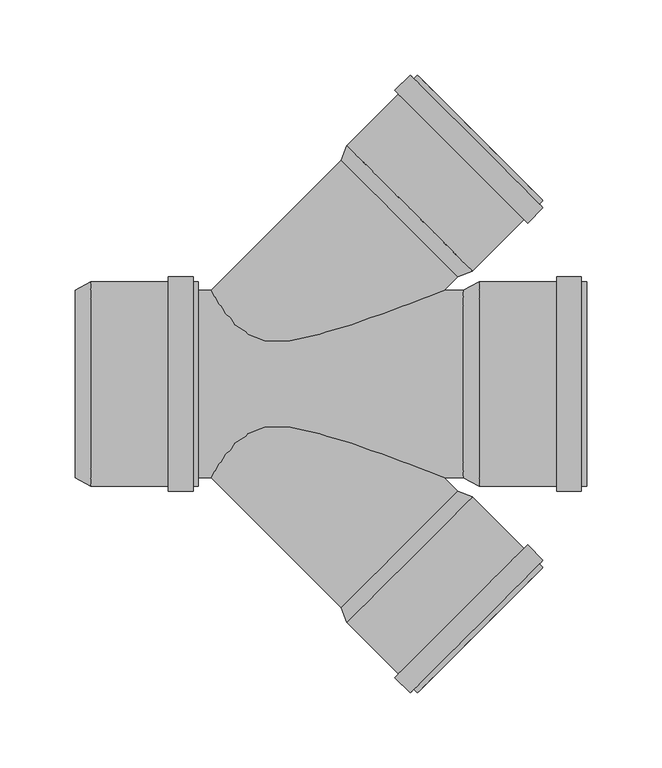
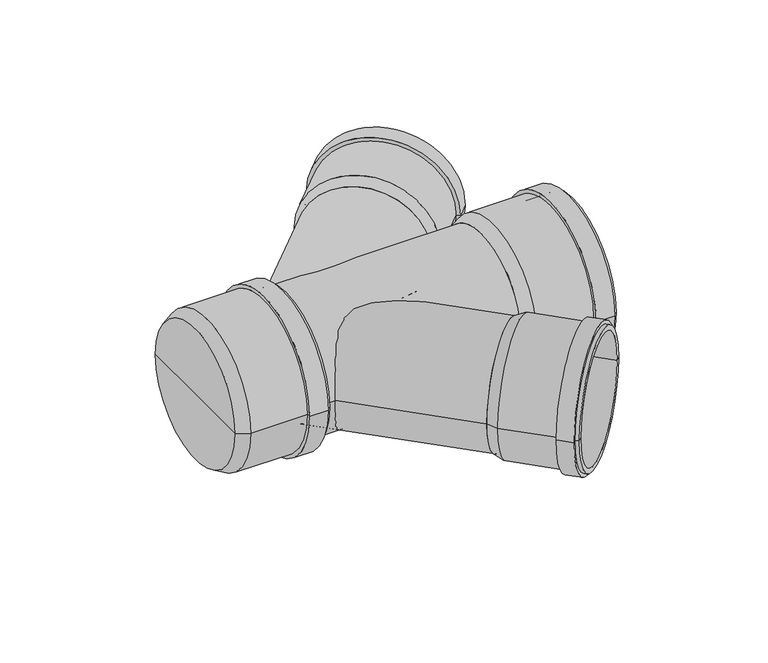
"""IFC4 building model written with IfcOpenShell, lengths in millimetres: pipe fitting geometry, pf_HTDA : pf_HTDA."""

from ifc_helpers import new_model, si_unit, point, frame, origin, origin_2d, place, context, project, spatial, polyline, circle_curve, trimmed, segment, composite_curve, outline, extrude, source, transform, mapped, element, save
from ifc_brep_helpers import plane_surface, cylinder_surface, revolved_surface, advanced_brep


def pipe_fitting_0b0d437f(model_context):
    return source(origin(), model_context, "Body", "SolidModel", [
        advanced_brep(
        [(149.1288202, 71.3470742, 0.0), (71.3470742, 149.1288202, 0.0), (75.1654508, 158.7454724, 0.0), (158.7454724, 75.1654508, 0.0), (110.2379472, 110.2379472, 0.0), (205.7680733, 122.1880518, 0.0), (122.1880518, 205.7680733, 0.0), (125.0871896, 202.8689355, 0.0), (202.8689355, 125.0871896, 0.0), (203.3639103, 119.7838887, 0.0), (119.7838887, 203.3639103, 0.0), (205.7680733, 117.3797257, 0.0), (117.3797257, 205.7680733, 0.0), (195.515025, 107.1266773, 0.0), (107.1266773, 195.515025, 0.0), (193.1108619, 109.5308404, 0.0), (109.5308404, 193.1108619, 0.0), (155.8463346, 78.0645886, 0.0), (78.0645886, 155.8463346, 0.0), (116.9554616, 116.9554616, 0.0)],
        [
            (0, 1, circle_curve(frame((110.2379472, 110.2379472, 0.0), z_axis=(0.707106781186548, 0.707106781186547, 0.0), x_axis=(-0.707106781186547, 0.707106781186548, 0.0)), 55.0)),
            (1, 2),
            (2, 3, circle_curve(frame((116.9554616, 116.9554616, 0.0), z_axis=(-0.707106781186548, -0.707106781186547, 0.0), x_axis=(-0.707106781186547, 0.707106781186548, 0.0)), 59.1)),
            (3, 0),
            (1, 0, circle_curve(frame((110.2379472, 110.2379472, 0.0), z_axis=(0.707106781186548, 0.707106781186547, 0.0), x_axis=(-0.707106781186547, 0.707106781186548, 0.0)), 55.0)),
            (3, 2, circle_curve(frame((116.9554616, 116.9554616, 0.0), z_axis=(-0.707106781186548, -0.707106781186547, 0.0), x_axis=(-0.707106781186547, 0.707106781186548, 0.0)), 59.1)),
            (4, 1),
            (0, 4),
            (5, 6, circle_curve(frame((163.9780626, 163.9780626, 0.0), z_axis=(0.707106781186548, 0.707106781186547, 0.0), x_axis=(-0.707106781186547, 0.707106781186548, 0.0)), 59.1)),
            (6, 7),
            (7, 8, circle_curve(frame((163.9780626, 163.9780626, 0.0), z_axis=(-0.707106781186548, -0.707106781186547, 0.0), x_axis=(-0.707106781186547, 0.707106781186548, 0.0)), 55.0)),
            (8, 5),
            (6, 5, circle_curve(frame((163.9780626, 163.9780626, 0.0), z_axis=(0.707106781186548, 0.707106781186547, 0.0), x_axis=(-0.707106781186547, 0.707106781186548, 0.0)), 59.1)),
            (8, 7, circle_curve(frame((163.9780626, 163.9780626, 0.0), z_axis=(-0.707106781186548, -0.707106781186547, 0.0), x_axis=(-0.707106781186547, 0.707106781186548, 0.0)), 55.0)),
            (9, 10, circle_curve(frame((161.5738995, 161.5738995, 0.0), z_axis=(0.707106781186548, 0.707106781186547, 0.0), x_axis=(-0.707106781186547, 0.707106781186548, 0.0)), 59.1)),
            (10, 6),
            (5, 9),
            (10, 9, circle_curve(frame((161.5738995, 161.5738995, 0.0), z_axis=(0.707106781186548, 0.707106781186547, 0.0), x_axis=(-0.707106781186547, 0.707106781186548, 0.0)), 59.1)),
            (11, 12, circle_curve(frame((161.5738995, 161.5738995, 0.0), z_axis=(0.707106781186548, 0.707106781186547, 0.0), x_axis=(-0.707106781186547, 0.707106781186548, 0.0)), 62.5)),
            (12, 10),
            (9, 11),
            (12, 11, circle_curve(frame((161.5738995, 161.5738995, 0.0), z_axis=(0.707106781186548, 0.707106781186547, 0.0), x_axis=(-0.707106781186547, 0.707106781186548, 0.0)), 62.5)),
            (13, 14, circle_curve(frame((151.3208512, 151.3208512, 0.0), z_axis=(0.707106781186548, 0.707106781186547, 0.0), x_axis=(-0.707106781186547, 0.707106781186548, 0.0)), 62.5)),
            (14, 12),
            (11, 13),
            (14, 13, circle_curve(frame((151.3208512, 151.3208512, 0.0), z_axis=(0.707106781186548, 0.707106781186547, 0.0), x_axis=(-0.707106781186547, 0.707106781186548, 0.0)), 62.5)),
            (15, 16, circle_curve(frame((151.3208512, 151.3208512, 0.0), z_axis=(0.707106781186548, 0.707106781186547, 0.0), x_axis=(-0.707106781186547, 0.707106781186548, 0.0)), 59.1)),
            (16, 14),
            (13, 15),
            (16, 15, circle_curve(frame((151.3208512, 151.3208512, 0.0), z_axis=(0.707106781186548, 0.707106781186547, 0.0), x_axis=(-0.707106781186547, 0.707106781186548, 0.0)), 59.1)),
            (2, 16),
            (15, 3),
            (17, 18, circle_curve(frame((116.9554616, 116.9554616, 0.0), z_axis=(0.707106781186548, 0.707106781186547, 0.0), x_axis=(-0.707106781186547, 0.707106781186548, 0.0)), 55.0)),
            (18, 19),
            (19, 17),
            (18, 17, circle_curve(frame((116.9554616, 116.9554616, 0.0), z_axis=(0.707106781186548, 0.707106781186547, 0.0), x_axis=(-0.707106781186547, 0.707106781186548, 0.0)), 55.0)),
            (7, 18),
            (17, 8),
        ],
        [
            revolved_surface(polyline([(75.1654508, 158.7454724, 0.0), (71.3470742, 149.1288202, 0.0)]), (110.2379472, 110.2379472, 0.0), (-0.707106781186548, -0.707106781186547, 0.0)),
            plane_surface(frame((110.2379472, 110.2379472, 0.0), z_axis=(-0.707106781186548, -0.707106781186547, 0.0), x_axis=(-0.707106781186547, 0.707106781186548, 0.0))),
            plane_surface(frame((163.9780626, 163.9780626, 0.0), z_axis=(0.707106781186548, 0.707106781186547, 0.0), x_axis=(-0.707106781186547, 0.707106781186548, 0.0))),
            cylinder_surface(frame((110.2379472, 110.2379472, 0.0), z_axis=(-0.707106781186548, -0.707106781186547, 0.0), x_axis=(-0.707106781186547, 0.707106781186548, 0.0)), 59.1),
            plane_surface(frame((161.5738995, 161.5738995, 0.0), z_axis=(0.707106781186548, 0.707106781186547, 0.0), x_axis=(-0.707106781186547, 0.707106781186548, 0.0))),
            cylinder_surface(frame((110.2379472, 110.2379472, 0.0), z_axis=(-0.707106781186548, -0.707106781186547, 0.0), x_axis=(-0.707106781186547, 0.707106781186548, 0.0)), 62.5),
            plane_surface(frame((151.3208512, 151.3208512, 0.0), z_axis=(-0.707106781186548, -0.707106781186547, 0.0), x_axis=(-0.707106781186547, 0.707106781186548, 0.0))),
            plane_surface(frame((116.9554616, 116.9554616, 0.0), z_axis=(0.707106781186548, 0.707106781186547, 0.0), x_axis=(-0.707106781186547, 0.707106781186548, 0.0))),
            revolved_surface(polyline([(78.06458863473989, 155.84633456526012, 0.0), (125.08718963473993, 202.8689355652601, 0.0)]), (110.2379472, 110.2379472, 0.0), (-0.707106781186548, -0.707106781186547, 0.0)),
        ],
        [
            (0, [[1, 2, 3, 4]]),
            (0, [[5, -4, 6, -2]]),
            (1, [[7, -1, 8]]),
            (1, [[-8, -5, -7]]),
            (2, [[9, 10, 11, 12]]),
            (2, [[13, -12, 14, -10]]),
            (3, [[15, 16, -9, 17]]),
            (3, [[18, -17, -13, -16]]),
            (4, [[19, 20, -15, 21]]),
            (4, [[22, -21, -18, -20]]),
            (5, [[23, 24, -19, 25]]),
            (5, [[26, -25, -22, -24]]),
            (6, [[27, 28, -23, 29]]),
            (6, [[30, -29, -26, -28]]),
            (3, [[-3, 31, -27, 32]]),
            (3, [[-6, -32, -30, -31]]),
            (7, [[33, 34, 35]]),
            (7, [[36, -35, -34]]),
            (8, [[-11, 37, -33, 38]]),
            (8, [[-14, -38, -36, -37]]),
        ],
    ),
        advanced_brep(
        [(71.3470742, -149.1288202, 0.0), (149.1288202, -71.3470742, 0.0), (158.7454724, -75.1654508, 0.0), (75.1654508, -158.7454724, 0.0), (110.2379472, -110.2379472, 0.0), (122.1880518, -205.7680733, 0.0), (205.7680733, -122.1880518, 0.0), (202.8689355, -125.0871896, 0.0), (125.0871896, -202.8689355, 0.0), (119.7838887, -203.3639103, 0.0), (203.3639103, -119.7838887, 0.0), (117.3797257, -205.7680733, 0.0), (205.7680733, -117.3797257, 0.0), (107.1266773, -195.515025, 0.0), (195.515025, -107.1266773, 0.0), (109.5308404, -193.1108619, 0.0), (193.1108619, -109.5308404, 0.0), (78.0645886, -155.8463346, 0.0), (155.8463346, -78.0645886, 0.0), (116.9554616, -116.9554616, 0.0)],
        [
            (0, 1, circle_curve(frame((110.2379472, -110.2379472, 0.0), z_axis=(0.7071067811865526, -0.7071067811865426, 0.0), x_axis=(0.7071067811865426, 0.7071067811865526, 0.0)), 55.0)),
            (1, 2),
            (2, 3, circle_curve(frame((116.9554616, -116.9554616, 0.0), z_axis=(-0.7071067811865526, 0.7071067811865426, 0.0), x_axis=(0.7071067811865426, 0.7071067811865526, 0.0)), 59.1)),
            (3, 0),
            (1, 0, circle_curve(frame((110.2379472, -110.2379472, 0.0), z_axis=(0.7071067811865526, -0.7071067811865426, 0.0), x_axis=(0.7071067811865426, 0.7071067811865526, 0.0)), 55.0)),
            (3, 2, circle_curve(frame((116.9554616, -116.9554616, 0.0), z_axis=(-0.7071067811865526, 0.7071067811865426, 0.0), x_axis=(0.7071067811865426, 0.7071067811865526, 0.0)), 59.1)),
            (4, 1),
            (0, 4),
            (5, 6, circle_curve(frame((163.9780626, -163.9780626, 0.0), z_axis=(0.7071067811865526, -0.7071067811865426, 0.0), x_axis=(0.7071067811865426, 0.7071067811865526, 0.0)), 59.1)),
            (6, 7),
            (7, 8, circle_curve(frame((163.9780626, -163.9780626, 0.0), z_axis=(-0.7071067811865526, 0.7071067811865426, 0.0), x_axis=(0.7071067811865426, 0.7071067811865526, 0.0)), 55.0)),
            (8, 5),
            (6, 5, circle_curve(frame((163.9780626, -163.9780626, 0.0), z_axis=(0.7071067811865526, -0.7071067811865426, 0.0), x_axis=(0.7071067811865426, 0.7071067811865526, 0.0)), 59.1)),
            (8, 7, circle_curve(frame((163.9780626, -163.9780626, 0.0), z_axis=(-0.7071067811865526, 0.7071067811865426, 0.0), x_axis=(0.7071067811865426, 0.7071067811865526, 0.0)), 55.0)),
            (9, 10, circle_curve(frame((161.5738995, -161.5738995, 0.0), z_axis=(0.7071067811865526, -0.7071067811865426, 0.0), x_axis=(0.7071067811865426, 0.7071067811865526, 0.0)), 59.1)),
            (10, 6),
            (5, 9),
            (10, 9, circle_curve(frame((161.5738995, -161.5738995, 0.0), z_axis=(0.7071067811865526, -0.7071067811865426, 0.0), x_axis=(0.7071067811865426, 0.7071067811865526, 0.0)), 59.1)),
            (11, 12, circle_curve(frame((161.5738995, -161.5738995, 0.0), z_axis=(0.7071067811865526, -0.7071067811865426, 0.0), x_axis=(0.7071067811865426, 0.7071067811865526, 0.0)), 62.5)),
            (12, 10),
            (9, 11),
            (12, 11, circle_curve(frame((161.5738995, -161.5738995, 0.0), z_axis=(0.7071067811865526, -0.7071067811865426, 0.0), x_axis=(0.7071067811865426, 0.7071067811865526, 0.0)), 62.5)),
            (13, 14, circle_curve(frame((151.3208512, -151.3208512, 0.0), z_axis=(0.7071067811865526, -0.7071067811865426, 0.0), x_axis=(0.7071067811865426, 0.7071067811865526, 0.0)), 62.5)),
            (14, 12),
            (11, 13),
            (14, 13, circle_curve(frame((151.3208512, -151.3208512, 0.0), z_axis=(0.7071067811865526, -0.7071067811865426, 0.0), x_axis=(0.7071067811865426, 0.7071067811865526, 0.0)), 62.5)),
            (15, 16, circle_curve(frame((151.3208512, -151.3208512, 0.0), z_axis=(0.7071067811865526, -0.7071067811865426, 0.0), x_axis=(0.7071067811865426, 0.7071067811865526, 0.0)), 59.1)),
            (16, 14),
            (13, 15),
            (16, 15, circle_curve(frame((151.3208512, -151.3208512, 0.0), z_axis=(0.7071067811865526, -0.7071067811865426, 0.0), x_axis=(0.7071067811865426, 0.7071067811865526, 0.0)), 59.1)),
            (2, 16),
            (15, 3),
            (17, 18, circle_curve(frame((116.9554616, -116.9554616, 0.0), z_axis=(0.7071067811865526, -0.7071067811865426, 0.0), x_axis=(0.7071067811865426, 0.7071067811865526, 0.0)), 55.0)),
            (18, 19),
            (19, 17),
            (18, 17, circle_curve(frame((116.9554616, -116.9554616, 0.0), z_axis=(0.7071067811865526, -0.7071067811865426, 0.0), x_axis=(0.7071067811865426, 0.7071067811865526, 0.0)), 55.0)),
            (7, 18),
            (17, 8),
        ],
        [
            revolved_surface(polyline([(158.7454724, -75.1654508, 0.0), (149.1288202, -71.3470742, 0.0)]), (110.2379472, -110.2379472, 0.0), (-0.7071067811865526, 0.7071067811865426, 0.0)),
            plane_surface(frame((110.2379472, -110.2379472, 0.0), z_axis=(-0.7071067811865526, 0.7071067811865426, 0.0), x_axis=(0.7071067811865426, 0.7071067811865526, 0.0))),
            plane_surface(frame((163.9780626, -163.9780626, 0.0), z_axis=(0.7071067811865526, -0.7071067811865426, 0.0), x_axis=(0.7071067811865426, 0.7071067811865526, 0.0))),
            cylinder_surface(frame((110.2379472, -110.2379472, 0.0), z_axis=(-0.7071067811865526, 0.7071067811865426, 0.0), x_axis=(0.7071067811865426, 0.7071067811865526, 0.0)), 59.1),
            plane_surface(frame((161.5738995, -161.5738995, 0.0), z_axis=(0.7071067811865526, -0.7071067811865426, 0.0), x_axis=(0.7071067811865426, 0.7071067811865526, 0.0))),
            cylinder_surface(frame((110.2379472, -110.2379472, 0.0), z_axis=(-0.7071067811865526, 0.7071067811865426, 0.0), x_axis=(0.7071067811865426, 0.7071067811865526, 0.0)), 62.5),
            plane_surface(frame((151.3208512, -151.3208512, 0.0), z_axis=(-0.7071067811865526, 0.7071067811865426, 0.0), x_axis=(0.7071067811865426, 0.7071067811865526, 0.0))),
            plane_surface(frame((116.9554616, -116.9554616, 0.0), z_axis=(0.7071067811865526, -0.7071067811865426, 0.0), x_axis=(0.7071067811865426, 0.7071067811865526, 0.0))),
            revolved_surface(polyline([(155.8463345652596, -78.0645886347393, 0.0), (202.86893556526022, -125.08718963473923, 0.0)]), (110.2379472, -110.2379472, 0.0), (-0.7071067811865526, 0.7071067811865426, 0.0)),
        ],
        [
            (0, [[1, 2, 3, 4]]),
            (0, [[5, -4, 6, -2]]),
            (1, [[7, -1, 8]]),
            (1, [[-8, -5, -7]]),
            (2, [[9, 10, 11, 12]]),
            (2, [[13, -12, 14, -10]]),
            (3, [[15, 16, -9, 17]]),
            (3, [[18, -17, -13, -16]]),
            (4, [[19, 20, -15, 21]]),
            (4, [[22, -21, -18, -20]]),
            (5, [[23, 24, -19, 25]]),
            (5, [[26, -25, -22, -24]]),
            (6, [[27, 28, -23, 29]]),
            (6, [[30, -29, -26, -28]]),
            (3, [[-3, 31, -27, 32]]),
            (3, [[-6, -32, -30, -31]]),
            (7, [[33, 34, 35]]),
            (7, [[36, -35, -34]]),
            (8, [[-11, 37, -33, 38]]),
            (8, [[-14, -38, -36, -37]]),
        ],
    ),
        advanced_brep(
        [(152.8, -62.5, 0.0), (152.8, 62.5, 0.0), (163.3, 68.1, 0.0), (163.3, -68.1, 0.0), (152.8, 0.0, 0.0), (234.8, -68.1, 0.0), (234.8, 68.1, 0.0), (234.8, 62.5, 0.0), (234.8, -62.5, 0.0), (231.4, -68.1, 0.0), (231.4, 68.1, 0.0), (231.4, -71.5, 0.0), (231.4, 71.5, 0.0), (214.8, -71.5, 0.0), (214.8, 71.5, 0.0), (214.8, -68.1, 0.0), (214.8, 68.1, 0.0), (163.3, -62.5, 0.0), (163.3, 62.5, 0.0), (163.3, 0.0, 0.0)],
        [
            (0, 1, circle_curve(frame((152.8, 0.0, 0.0), z_axis=(1.0, 0.0, 0.0), x_axis=(0.0, 1.0, 0.0)), 62.5)),
            (1, 2),
            (2, 3, circle_curve(frame((163.3, 0.0, 0.0), z_axis=(-1.0, 0.0, 0.0), x_axis=(0.0, 1.0, 0.0)), 68.1)),
            (3, 0),
            (1, 0, circle_curve(frame((152.8, 0.0, 0.0), z_axis=(1.0, 0.0, 0.0), x_axis=(0.0, 1.0, 0.0)), 62.5)),
            (3, 2, circle_curve(frame((163.3, 0.0, 0.0), z_axis=(-1.0, 0.0, 0.0), x_axis=(0.0, 1.0, 0.0)), 68.1)),
            (4, 1),
            (0, 4),
            (5, 6, circle_curve(frame((234.8, 0.0, 0.0), z_axis=(1.0, 0.0, 0.0), x_axis=(0.0, 1.0, 0.0)), 68.1)),
            (6, 7),
            (7, 8, circle_curve(frame((234.8, 0.0, 0.0), z_axis=(-1.0, 0.0, 0.0), x_axis=(0.0, 1.0, 0.0)), 62.5)),
            (8, 5),
            (6, 5, circle_curve(frame((234.8, 0.0, 0.0), z_axis=(1.0, 0.0, 0.0), x_axis=(0.0, 1.0, 0.0)), 68.1)),
            (8, 7, circle_curve(frame((234.8, 0.0, 0.0), z_axis=(-1.0, 0.0, 0.0), x_axis=(0.0, 1.0, 0.0)), 62.5)),
            (9, 10, circle_curve(frame((231.4, 0.0, 0.0), z_axis=(1.0, 0.0, 0.0), x_axis=(0.0, 1.0, 0.0)), 68.1)),
            (10, 6),
            (5, 9),
            (10, 9, circle_curve(frame((231.4, 0.0, 0.0), z_axis=(1.0, 0.0, 0.0), x_axis=(0.0, 1.0, 0.0)), 68.1)),
            (11, 12, circle_curve(frame((231.4, 0.0, 0.0), z_axis=(1.0, 0.0, 0.0), x_axis=(0.0, 1.0, 0.0)), 71.5)),
            (12, 10),
            (9, 11),
            (12, 11, circle_curve(frame((231.4, 0.0, 0.0), z_axis=(1.0, 0.0, 0.0), x_axis=(0.0, 1.0, 0.0)), 71.5)),
            (13, 14, circle_curve(frame((214.8, 0.0, 0.0), z_axis=(1.0, 0.0, 0.0), x_axis=(0.0, 1.0, 0.0)), 71.5)),
            (14, 12),
            (11, 13),
            (14, 13, circle_curve(frame((214.8, 0.0, 0.0), z_axis=(1.0, 0.0, 0.0), x_axis=(0.0, 1.0, 0.0)), 71.5)),
            (15, 16, circle_curve(frame((214.8, 0.0, 0.0), z_axis=(1.0, 0.0, 0.0), x_axis=(0.0, 1.0, 0.0)), 68.1)),
            (16, 14),
            (13, 15),
            (16, 15, circle_curve(frame((214.8, 0.0, 0.0), z_axis=(1.0, 0.0, 0.0), x_axis=(0.0, 1.0, 0.0)), 68.1)),
            (2, 16),
            (15, 3),
            (17, 18, circle_curve(frame((163.3, 0.0, 0.0), z_axis=(1.0, 0.0, 0.0), x_axis=(0.0, 1.0, 0.0)), 62.5)),
            (18, 19),
            (19, 17),
            (18, 17, circle_curve(frame((163.3, 0.0, 0.0), z_axis=(1.0, 0.0, 0.0), x_axis=(0.0, 1.0, 0.0)), 62.5)),
            (7, 18),
            (17, 8),
        ],
        [
            revolved_surface(polyline([(163.3, 68.1, 0.0), (152.8, 62.5, 0.0)]), (152.8, 0.0, 0.0), (-1.0, 0.0, 0.0)),
            plane_surface(frame((152.8, 0.0, 0.0), z_axis=(-1.0, 0.0, 0.0), x_axis=(0.0, 1.0, 0.0))),
            plane_surface(frame((234.8, 0.0, 0.0), z_axis=(1.0, 0.0, 0.0), x_axis=(0.0, 1.0, 0.0))),
            cylinder_surface(frame((152.8, 0.0, 0.0), z_axis=(-1.0, 0.0, 0.0), x_axis=(0.0, 1.0, 0.0)), 68.1),
            plane_surface(frame((231.4, 0.0, 0.0), z_axis=(1.0, 0.0, 0.0), x_axis=(0.0, 1.0, 0.0))),
            cylinder_surface(frame((152.8, 0.0, 0.0), z_axis=(-1.0, 0.0, 0.0), x_axis=(0.0, 1.0, 0.0)), 71.5),
            plane_surface(frame((214.8, 0.0, 0.0), z_axis=(-1.0, 0.0, 0.0), x_axis=(0.0, 1.0, 0.0))),
            plane_surface(frame((163.3, 0.0, 0.0), z_axis=(1.0, 0.0, 0.0), x_axis=(0.0, 1.0, 0.0))),
            revolved_surface(polyline([(163.3, 62.5, 0.0), (234.8, 62.5, 0.0)]), (152.8, 0.0, 0.0), (-1.0, 0.0, 0.0)),
        ],
        [
            (0, [[1, 2, 3, 4]]),
            (0, [[5, -4, 6, -2]]),
            (1, [[7, -1, 8]]),
            (1, [[-8, -5, -7]]),
            (2, [[9, 10, 11, 12]]),
            (2, [[13, -12, 14, -10]]),
            (3, [[15, 16, -9, 17]]),
            (3, [[18, -17, -13, -16]]),
            (4, [[19, 20, -15, 21]]),
            (4, [[22, -21, -18, -20]]),
            (5, [[23, 24, -19, 25]]),
            (5, [[26, -25, -22, -24]]),
            (6, [[27, 28, -23, 29]]),
            (6, [[30, -29, -26, -28]]),
            (3, [[-3, 31, -27, 32]]),
            (3, [[-6, -32, -30, -31]]),
            (7, [[33, 34, 35]]),
            (7, [[36, -35, -34]]),
            (8, [[-11, 37, -33, 38]]),
            (8, [[-14, -38, -36, -37]]),
        ],
    ),
        advanced_brep(
        [(-105.9, -62.5, 0.0), (-105.9, 62.5, 0.0), (-95.4, 68.1, 0.0), (-95.4, -68.1, 0.0), (-105.9, 0.0, 0.0), (-23.9, -68.1, 0.0), (-23.9, 68.1, 0.0), (-23.9, 62.5, 0.0), (-23.9, -62.5, 0.0), (-27.3, -68.1, 0.0), (-27.3, 68.1, 0.0), (-27.3, -71.5, 0.0), (-27.3, 71.5, 0.0), (-43.9, -71.5, 0.0), (-43.9, 71.5, 0.0), (-43.9, -68.1, 0.0), (-43.9, 68.1, 0.0), (-95.4, -62.5, 0.0), (-95.4, 62.5, 0.0), (-95.4, 0.0, 0.0)],
        [
            (0, 1, circle_curve(frame((-105.9, 0.0, 0.0), z_axis=(1.0, 0.0, 0.0), x_axis=(0.0, 1.0, 0.0)), 62.5)),
            (1, 2),
            (2, 3, circle_curve(frame((-95.4, 0.0, 0.0), z_axis=(-1.0, 0.0, 0.0), x_axis=(0.0, 1.0, 0.0)), 68.1)),
            (3, 0),
            (1, 0, circle_curve(frame((-105.9, 0.0, 0.0), z_axis=(1.0, 0.0, 0.0), x_axis=(0.0, 1.0, 0.0)), 62.5)),
            (3, 2, circle_curve(frame((-95.4, 0.0, 0.0), z_axis=(-1.0, 0.0, 0.0), x_axis=(0.0, 1.0, 0.0)), 68.1)),
            (4, 1),
            (0, 4),
            (5, 6, circle_curve(frame((-23.9, 0.0, 0.0), z_axis=(1.0, 0.0, 0.0), x_axis=(0.0, 1.0, 0.0)), 68.1)),
            (6, 7),
            (7, 8, circle_curve(frame((-23.9, 0.0, 0.0), z_axis=(-1.0, 0.0, 0.0), x_axis=(0.0, 1.0, 0.0)), 62.5)),
            (8, 5),
            (6, 5, circle_curve(frame((-23.9, 0.0, 0.0), z_axis=(1.0, 0.0, 0.0), x_axis=(0.0, 1.0, 0.0)), 68.1)),
            (8, 7, circle_curve(frame((-23.9, 0.0, 0.0), z_axis=(-1.0, 0.0, 0.0), x_axis=(0.0, 1.0, 0.0)), 62.5)),
            (9, 10, circle_curve(frame((-27.3, 0.0, 0.0), z_axis=(1.0, 0.0, 0.0), x_axis=(0.0, 1.0, 0.0)), 68.1)),
            (10, 6),
            (5, 9),
            (10, 9, circle_curve(frame((-27.3, 0.0, 0.0), z_axis=(1.0, 0.0, 0.0), x_axis=(0.0, 1.0, 0.0)), 68.1)),
            (11, 12, circle_curve(frame((-27.3, 0.0, 0.0), z_axis=(1.0, 0.0, 0.0), x_axis=(0.0, 1.0, 0.0)), 71.5)),
            (12, 10),
            (9, 11),
            (12, 11, circle_curve(frame((-27.3, 0.0, 0.0), z_axis=(1.0, 0.0, 0.0), x_axis=(0.0, 1.0, 0.0)), 71.5)),
            (13, 14, circle_curve(frame((-43.9, 0.0, 0.0), z_axis=(1.0, 0.0, 0.0), x_axis=(0.0, 1.0, 0.0)), 71.5)),
            (14, 12),
            (11, 13),
            (14, 13, circle_curve(frame((-43.9, 0.0, 0.0), z_axis=(1.0, 0.0, 0.0), x_axis=(0.0, 1.0, 0.0)), 71.5)),
            (15, 16, circle_curve(frame((-43.9, 0.0, 0.0), z_axis=(1.0, 0.0, 0.0), x_axis=(0.0, 1.0, 0.0)), 68.1)),
            (16, 14),
            (13, 15),
            (16, 15, circle_curve(frame((-43.9, 0.0, 0.0), z_axis=(1.0, 0.0, 0.0), x_axis=(0.0, 1.0, 0.0)), 68.1)),
            (2, 16),
            (15, 3),
            (17, 18, circle_curve(frame((-95.4, 0.0, 0.0), z_axis=(1.0, 0.0, 0.0), x_axis=(0.0, 1.0, 0.0)), 62.5)),
            (18, 19),
            (19, 17),
            (18, 17, circle_curve(frame((-95.4, 0.0, 0.0), z_axis=(1.0, 0.0, 0.0), x_axis=(0.0, 1.0, 0.0)), 62.5)),
            (7, 18),
            (17, 8),
        ],
        [
            revolved_surface(polyline([(-95.4, 68.1, 0.0), (-105.9, 62.5, 0.0)]), (-105.9, 0.0, 0.0), (-1.0, 0.0, 0.0)),
            plane_surface(frame((-105.9, 0.0, 0.0), z_axis=(-1.0, 0.0, 0.0), x_axis=(0.0, 1.0, 0.0))),
            plane_surface(frame((-23.9, 0.0, 0.0), z_axis=(1.0, 0.0, 0.0), x_axis=(0.0, 1.0, 0.0))),
            cylinder_surface(frame((-105.9, 0.0, 0.0), z_axis=(-1.0, 0.0, 0.0), x_axis=(0.0, 1.0, 0.0)), 68.1),
            plane_surface(frame((-27.3, 0.0, 0.0), z_axis=(1.0, 0.0, 0.0), x_axis=(0.0, 1.0, 0.0))),
            cylinder_surface(frame((-105.9, 0.0, 0.0), z_axis=(-1.0, 0.0, 0.0), x_axis=(0.0, 1.0, 0.0)), 71.5),
            plane_surface(frame((-43.9, 0.0, 0.0), z_axis=(-1.0, 0.0, 0.0), x_axis=(0.0, 1.0, 0.0))),
            plane_surface(frame((-95.4, 0.0, 0.0), z_axis=(1.0, 0.0, 0.0), x_axis=(0.0, 1.0, 0.0))),
            revolved_surface(polyline([(-95.4, 62.5, 0.0), (-23.900000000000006, 62.5, 0.0)]), (-105.9, 0.0, 0.0), (-1.0, 0.0, 0.0)),
        ],
        [
            (0, [[1, 2, 3, 4]]),
            (0, [[5, -4, 6, -2]]),
            (1, [[7, -1, 8]]),
            (1, [[-8, -5, -7]]),
            (2, [[9, 10, 11, 12]]),
            (2, [[13, -12, 14, -10]]),
            (3, [[15, 16, -9, 17]]),
            (3, [[18, -17, -13, -16]]),
            (4, [[19, 20, -15, 21]]),
            (4, [[22, -21, -18, -20]]),
            (5, [[23, 24, -19, 25]]),
            (5, [[26, -25, -22, -24]]),
            (6, [[27, 28, -23, 29]]),
            (6, [[30, -29, -26, -28]]),
            (3, [[-3, 31, -27, 32]]),
            (3, [[-6, -32, -30, -31]]),
            (7, [[33, 34, 35]]),
            (7, [[36, -35, -34]]),
            (8, [[-11, 37, -33, 38]]),
            (8, [[-14, -38, -36, -37]]),
        ],
    ),
        extrude(outline(composite_curve([segment(trimmed(circle_curve(origin_2d(), 55.0), [point((0.0, 55.0))], [point((0.0, -55.0))], False, "CARTESIAN"), True, "CONTINUOUS"), segment(trimmed(circle_curve(origin_2d(), 55.0), [point((0.0, -55.0))], [point((0.0, 55.0))], False, "CARTESIAN"), True, "CONTINUOUS")], self_intersect=False)), frame((0.0, 0.0, 0.0), z_axis=(0.7071067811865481, 0.707106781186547, 0.0), x_axis=(0.0, 0.0, 1.0)), (0.0, 0.0, 1.0), 155.9),
        extrude(outline(composite_curve([segment(trimmed(circle_curve(origin_2d(), 55.0), [point((0.0, -55.0))], [point((0.0, 55.0))], False, "CARTESIAN"), True, "CONTINUOUS"), segment(trimmed(circle_curve(origin_2d(), 55.0), [point((0.0, 55.0))], [point((0.0, -55.0))], False, "CARTESIAN"), True, "CONTINUOUS")], self_intersect=False)), frame((110.2379472, -110.2379472, 0.0), z_axis=(-0.7071067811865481, 0.7071067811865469, 0.0), x_axis=(0.0, 0.0, 1.0)), (0.0, 0.0, 1.0), 155.9),
        extrude(outline(composite_curve([segment(trimmed(circle_curve(origin_2d(), 62.5), [point((-62.5, 0.0))], [point((62.5, 0.0))], False, "CARTESIAN"), True, "CONTINUOUS"), segment(trimmed(circle_curve(origin_2d(), 62.5), [point((62.5, 0.0))], [point((-62.5, 0.0))], False, "CARTESIAN"), True, "CONTINUOUS")], self_intersect=False)), frame((-95.4, 0.0, 0.0), z_axis=(1.0, 0.0, 0.0), x_axis=(0.0, 1.0, 0.0)), (0.0, 0.0, 1.0), 248.2),
    ])


if __name__ == "__main__":
    model = new_model("IFC4")
    model_context = context("Model", 3, world=origin())
    ifc_project = project(units=[si_unit("LENGTHUNIT", "METRE", prefix="MILLI")], contexts=[model_context])
    site = spatial("IfcSite", under=ifc_project)
    building = spatial("IfcBuilding", under=site)
    placement = place(None, origin())
    pipe_fitting_shape = pipe_fitting_0b0d437f(model_context)
    element("IfcPipeFitting", 1, ObjectType="pf_HTDA : pf_HTDA", at=placement, inside=building, context=model_context, shape_type="MappedRepresentation", body=[
        mapped(pipe_fitting_shape, transform((0.0, 0.0, 0.0), x_axis=(1.0, 0.0, 0.0), y_axis=(0.0, 1.0, 0.0), z_axis=(0.0, 0.0, 1.0))),
    ])
    save(model, "model.ifc")
